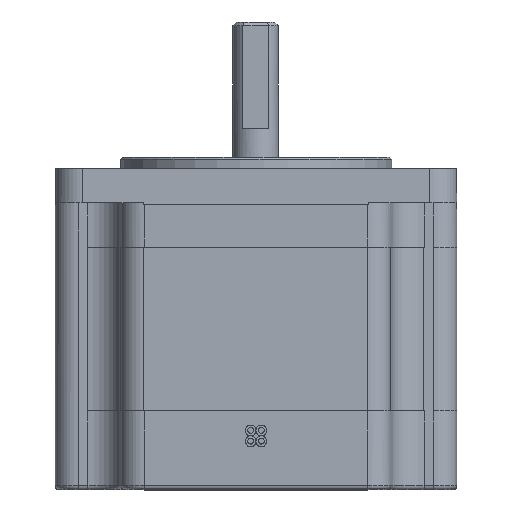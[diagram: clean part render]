
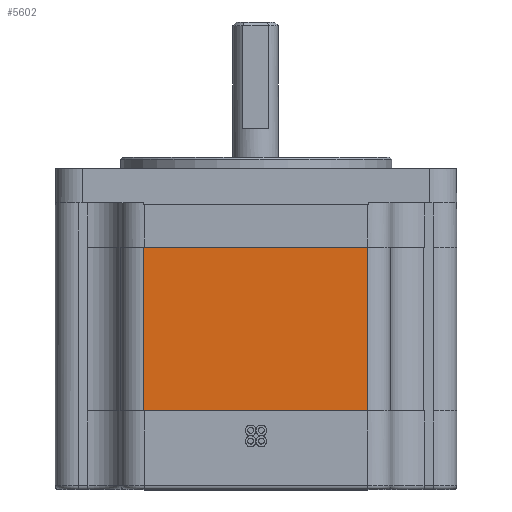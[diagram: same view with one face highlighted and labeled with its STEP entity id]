
A CAD part, top view. The second image highlights one B-rep face of the part: STEP entity #5602.
In plain terms, the highlighted planar face has unit normal (0, 0, 1).
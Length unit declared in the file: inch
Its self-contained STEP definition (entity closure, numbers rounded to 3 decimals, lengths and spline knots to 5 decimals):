
#5539=CARTESIAN_POINT('',(-0.61775,2.07779,1.11057));
#5540=VERTEX_POINT('',#5539);
#5549=CARTESIAN_POINT('',(-0.61775,1.17439,1.11057));
#5550=VERTEX_POINT('',#5549);
#5558=CARTESIAN_POINT('',(-0.61775,1.15028,1.11057));
#5559=DIRECTION('',(0.,1.,0.));
#5560=VECTOR('',#5559,1.);
#5561=LINE('',#5558,#5560);
#5562=EDGE_CURVE('',#5550,#5540,#5561,.T.);
#5572=ORIENTED_EDGE('',*,*,#5562,.F.);
#5573=CARTESIAN_POINT('',(0.61775,1.17439,1.11057));
#5574=VERTEX_POINT('',#5573);
#5575=CARTESIAN_POINT('',(0.33978,1.17439,1.11057));
#5576=DIRECTION('',(-1.,0.,0.));
#5577=VECTOR('',#5576,1.);
#5578=LINE('',#5575,#5577);
#5579=EDGE_CURVE('',#5574,#5550,#5578,.T.);
#5580=ORIENTED_EDGE('',*,*,#5579,.F.);
#5581=CARTESIAN_POINT('',(0.61775,2.07779,1.11057));
#5582=VERTEX_POINT('',#5581);
#5583=CARTESIAN_POINT('',(0.61775,1.15028,1.11057));
#5584=DIRECTION('',(0.,-1.,0.));
#5585=VECTOR('',#5584,1.);
#5586=LINE('',#5583,#5585);
#5587=EDGE_CURVE('',#5582,#5574,#5586,.T.);
#5588=ORIENTED_EDGE('',*,*,#5587,.F.);
#5589=CARTESIAN_POINT('',(0.33978,2.07779,1.11057));
#5590=DIRECTION('',(1.,0.,0.));
#5591=VECTOR('',#5590,1.);
#5592=LINE('',#5589,#5591);
#5593=EDGE_CURVE('',#5540,#5582,#5592,.T.);
#5594=ORIENTED_EDGE('',*,*,#5593,.F.);
#5595=EDGE_LOOP('',(#5572,#5580,#5588,#5594));
#5596=FACE_OUTER_BOUND('',#5595,.T.);
#5597=CARTESIAN_POINT('',(0.67956,1.15028,1.11057));
#5598=DIRECTION('',(0.,0.,1.));
#5599=DIRECTION('',(1.,0.,0.));
#5600=AXIS2_PLACEMENT_3D('',#5597,#5598,#5599);
#5601=PLANE('',#5600);
#5602=ADVANCED_FACE('',(#5596),#5601,.T.);
